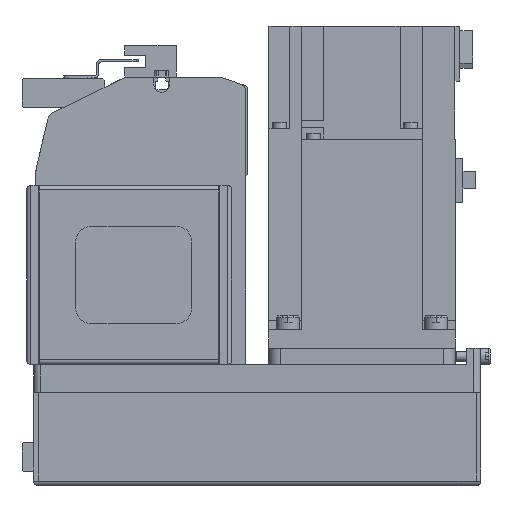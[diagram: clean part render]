
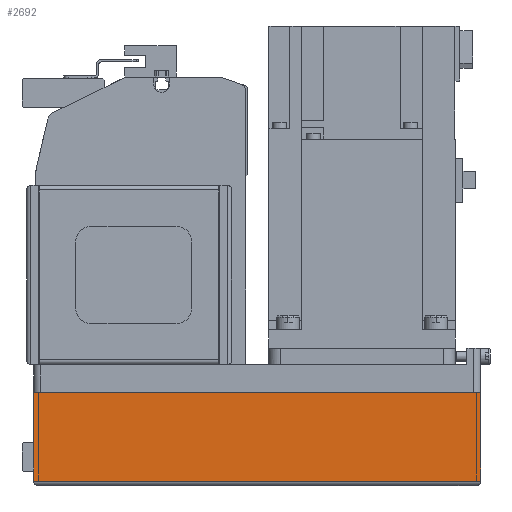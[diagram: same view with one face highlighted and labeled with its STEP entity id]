
A CAD part, left-side view. The second image highlights one B-rep face of the part: STEP entity #2692.
In plain terms, the highlighted planar face has unit normal (-1, 0, 0) as drawn and (0, 1, 0) by its records, which use the part's own axes.
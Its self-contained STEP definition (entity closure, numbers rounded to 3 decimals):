
#2692 = ADVANCED_FACE( '', ( #5648 ), #5649, .T. );
#5648 = FACE_OUTER_BOUND( '', #8770, .T. );
#5649 = PLANE( '', #8771 );
#8770 = EDGE_LOOP( '', ( #16377, #16378, #16379, #16380 ) );
#8771 = AXIS2_PLACEMENT_3D( '', #16381, #16382, #16383 );
#16377 = ORIENTED_EDGE( '', *, *, #20464, .F. );
#16378 = ORIENTED_EDGE( '', *, *, #19870, .F. );
#16379 = ORIENTED_EDGE( '', *, *, #19523, .T. );
#16380 = ORIENTED_EDGE( '', *, *, #21041, .T. );
#16381 = CARTESIAN_POINT( '', ( -192., 40., -50. ) );
#16382 = DIRECTION( '', ( 0., 1., 0. ) );
#16383 = DIRECTION( '', ( 0., 0., 1. ) );
#19523 = EDGE_CURVE( '', #21478, #23962, #23964, .T. );
#19870 = EDGE_CURVE( '', #21478, #22154, #24475, .T. );
#20464 = EDGE_CURVE( '', #22154, #24132, #25301, .T. );
#21041 = EDGE_CURVE( '', #23962, #24132, #26010, .T. );
#21478 = VERTEX_POINT( '', #26522 );
#22154 = VERTEX_POINT( '', #27440 );
#23962 = VERTEX_POINT( '', #30149 );
#23964 = LINE( '', #30152, #30153 );
#24132 = VERTEX_POINT( '', #30382 );
#24475 = LINE( '', #30921, #30922 );
#25301 = LINE( '', #32066, #32067 );
#26010 = LINE( '', #33075, #33076 );
#26522 = CARTESIAN_POINT( '', ( -192., 40., -50. ) );
#27440 = CARTESIAN_POINT( '', ( 0., 40., -50. ) );
#30149 = CARTESIAN_POINT( '', ( -192., 40., -12.1 ) );
#30152 = CARTESIAN_POINT( '', ( -192., 40., -50. ) );
#30153 = VECTOR( '', #35373, 1000. );
#30382 = CARTESIAN_POINT( '', ( 0., 40., -12.1 ) );
#30921 = CARTESIAN_POINT( '', ( -192., 40., -50. ) );
#30922 = VECTOR( '', #35805, 1000. );
#32066 = CARTESIAN_POINT( '', ( 0., 40., -50. ) );
#32067 = VECTOR( '', #36496, 1000. );
#33075 = CARTESIAN_POINT( '', ( -192., 40., -12.1 ) );
#33076 = VECTOR( '', #37103, 1000. );
#35373 = DIRECTION( '', ( 0., 0., 1. ) );
#35805 = DIRECTION( '', ( 1., 0., 0. ) );
#36496 = DIRECTION( '', ( 0., 0., 1. ) );
#37103 = DIRECTION( '', ( 1., 0., 0. ) );
